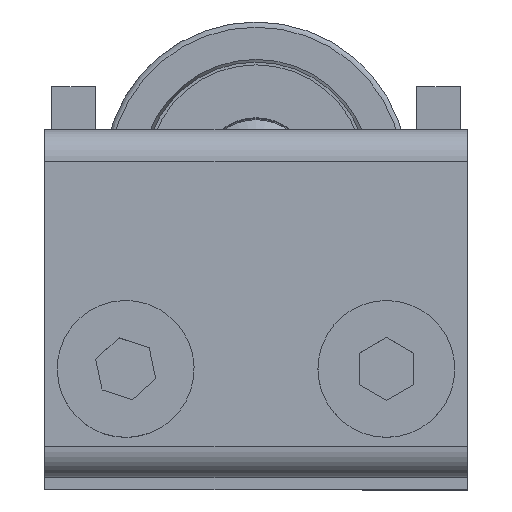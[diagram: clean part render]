
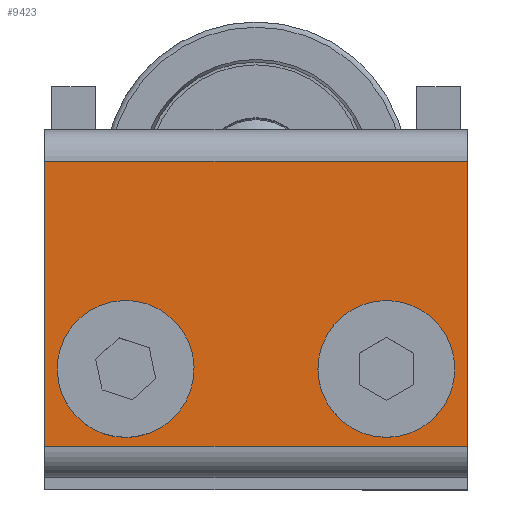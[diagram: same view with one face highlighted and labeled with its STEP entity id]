
A CAD part, top view. The second image highlights one B-rep face of the part: STEP entity #9423.
In plain terms, the highlighted planar face has unit normal (0, 0, 1) as drawn and (0, 0, -1) by its records, which use the part's own axes.
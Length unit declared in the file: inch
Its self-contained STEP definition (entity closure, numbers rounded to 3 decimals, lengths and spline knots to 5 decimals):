
#9140=DIRECTION('',(0.,-1.,0.));
#9141=VECTOR('',#9140,0.82);
#9142=CARTESIAN_POINT('',(0.6075,0.41,-0.18));
#9143=LINE('',#9142,#9141);
#9144=CARTESIAN_POINT('',(0.375,-0.188,-0.18));
#9145=DIRECTION('',(0.,0.,1.));
#9146=DIRECTION('',(1.,0.,0.));
#9147=AXIS2_PLACEMENT_3D('',#9144,#9145,#9146);
#9149=CARTESIAN_POINT('',(0.375,-0.188,-0.18));
#9150=DIRECTION('',(0.,0.,1.));
#9151=DIRECTION('',(-1.,0.,0.));
#9152=AXIS2_PLACEMENT_3D('',#9149,#9150,#9151);
#9154=CARTESIAN_POINT('',(-0.375,-0.188,-0.18));
#9155=DIRECTION('',(0.,0.,1.));
#9156=DIRECTION('',(1.,0.,0.));
#9157=AXIS2_PLACEMENT_3D('',#9154,#9155,#9156);
#9159=CARTESIAN_POINT('',(-0.375,-0.188,-0.18));
#9160=DIRECTION('',(0.,0.,1.));
#9161=DIRECTION('',(-1.,0.,0.));
#9162=AXIS2_PLACEMENT_3D('',#9159,#9160,#9161);
#9194=DIRECTION('',(0.,-1.,0.));
#9195=VECTOR('',#9194,0.82);
#9196=CARTESIAN_POINT('',(-0.6075,0.41,-0.18));
#9197=LINE('',#9196,#9195);
#9224=DIRECTION('',(-1.,0.,0.));
#9225=VECTOR('',#9224,1.215);
#9226=CARTESIAN_POINT('',(0.6075,0.41,-0.18));
#9227=LINE('',#9226,#9225);
#9304=DIRECTION('',(1.,0.,0.));
#9305=VECTOR('',#9304,1.215);
#9306=CARTESIAN_POINT('',(-0.6075,-0.41,-0.18));
#9307=LINE('',#9306,#9305);
#9313=CARTESIAN_POINT('',(-0.5,-0.188,-0.18));
#9315=VERTEX_POINT('',#9313);
#9317=CARTESIAN_POINT('',(-0.25,-0.188,-0.18));
#9319=VERTEX_POINT('',#9317);
#9334=CARTESIAN_POINT('',(0.6075,-0.41,-0.18));
#9335=VERTEX_POINT('',#9334);
#9346=CARTESIAN_POINT('',(0.25,-0.188,-0.18));
#9347=VERTEX_POINT('',#9346);
#9348=CARTESIAN_POINT('',(0.5,-0.188,-0.18));
#9349=VERTEX_POINT('',#9348);
#9352=CARTESIAN_POINT('',(-0.6075,0.41,-0.18));
#9353=VERTEX_POINT('',#9352);
#9362=CARTESIAN_POINT('',(-0.6075,-0.41,-0.18));
#9363=VERTEX_POINT('',#9362);
#9366=CARTESIAN_POINT('',(0.6075,0.41,-0.18));
#9367=VERTEX_POINT('',#9366);
#9398=CARTESIAN_POINT('',(0.6075,0.5,-0.18));
#9399=DIRECTION('',(0.,0.,1.));
#9400=DIRECTION('',(0.,-1.,0.));
#9401=AXIS2_PLACEMENT_3D('',#9398,#9399,#9400);
#9402=PLANE('',#9401);
#9404=ORIENTED_EDGE('',*,*,#9403,.F.);
#9406=ORIENTED_EDGE('',*,*,#9405,.T.);
#9408=ORIENTED_EDGE('',*,*,#9407,.T.);
#9410=ORIENTED_EDGE('',*,*,#9409,.T.);
#9411=EDGE_LOOP('',(#9404,#9406,#9408,#9410));
#9412=FACE_OUTER_BOUND('',#9411,.F.);
#9413=ORIENTED_EDGE('',*,*,#9379,.F.);
#9414=ORIENTED_EDGE('',*,*,#9389,.F.);
#9415=EDGE_LOOP('',(#9413,#9414));
#9416=FACE_BOUND('',#9415,.F.);
#9418=ORIENTED_EDGE('',*,*,#9417,.F.);
#9420=ORIENTED_EDGE('',*,*,#9419,.F.);
#9421=EDGE_LOOP('',(#9418,#9420));
#9422=FACE_BOUND('',#9421,.F.);
#9148=CIRCLE('',#9147,0.125);
#9153=CIRCLE('',#9152,0.125);
#9158=CIRCLE('',#9157,0.125);
#9163=CIRCLE('',#9162,0.125);
#9379=EDGE_CURVE('',#9349,#9347,#9148,.T.);
#9389=EDGE_CURVE('',#9347,#9349,#9153,.T.);
#9403=EDGE_CURVE('',#9367,#9335,#9143,.T.);
#9405=EDGE_CURVE('',#9367,#9353,#9227,.T.);
#9407=EDGE_CURVE('',#9353,#9363,#9197,.T.);
#9409=EDGE_CURVE('',#9363,#9335,#9307,.T.);
#9417=EDGE_CURVE('',#9319,#9315,#9158,.T.);
#9419=EDGE_CURVE('',#9315,#9319,#9163,.T.);
#9423=ADVANCED_FACE('',(#9412,#9416,#9422),#9402,.F.);
